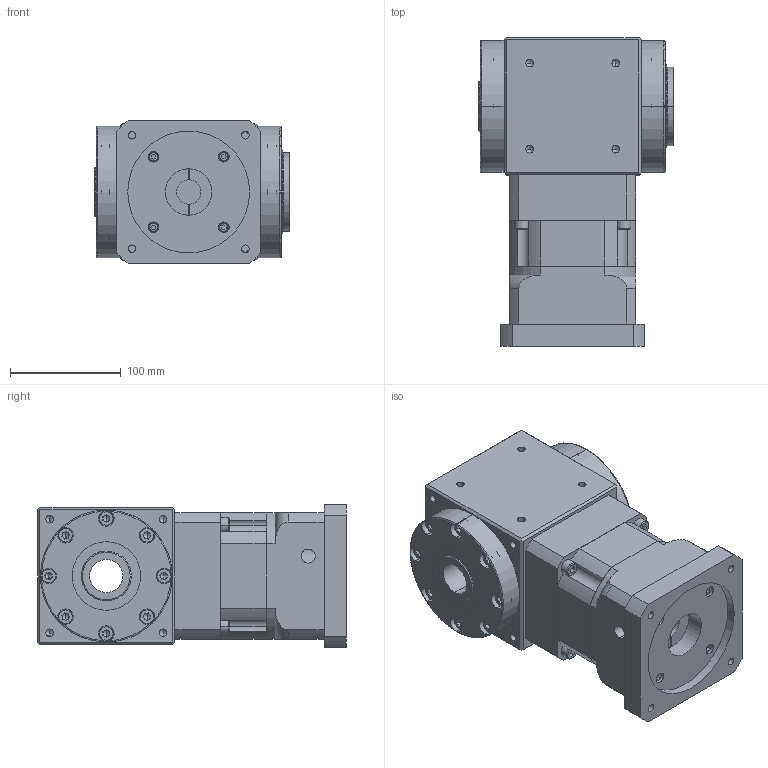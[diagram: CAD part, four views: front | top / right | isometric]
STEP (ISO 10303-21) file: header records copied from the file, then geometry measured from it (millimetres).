
FILE_DESCRIPTION (( 'STEP AP214' ), '1' );
FILE_NAME ('RAM120-L1-XX-F-22-110-145-M8_2019.STEP', '2019-04-09T03:53:48', ( 'Y' ), ( 'NCU' ), 'SwSTEP 2.0', 'SolidWorks 2016', '' );
FILE_SCHEMA (( 'AUTOMOTIVE_DESIGN' ));
Length unit declared in the file: millimetre
Products named in the file (1): RAM120-L1-XX-F-22-110-145-M8_2019
Bounding box: 176 x 278.8 x 130 mm (x, y, z)
Volume: 4072529.1 mm3; surface area: 359884 mm2
Topology: 4 solids, 32 shells, 1000 faces, 2336 edges, 1424 vertices
Faces by surface type: plane 488, cylinder 330, cone 136, torus 46
Entity records: 32402 total; most frequent: CARTESIAN_POINT 7419, DIRECTION 5120, ORIENTED_EDGE 4480, EDGE_CURVE 2240, AXIS2_PLACEMENT_3D 1945, VERTEX_POINT 1424, LINE 1230, VECTOR 1230
